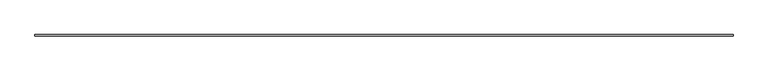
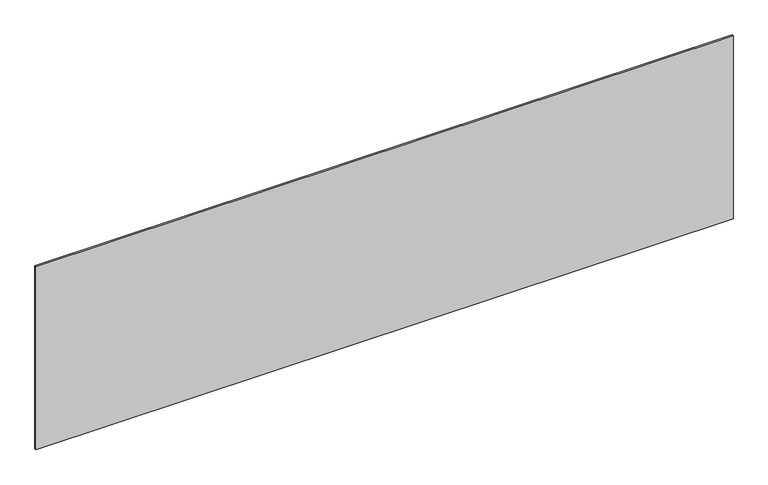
"""IFC4 building model written with IfcOpenShell, lengths in millimetres: plate geometry, システム パネル : 標準."""

from ifc_helpers import new_model, si_unit, origin, origin_with_axes, place, context, project, spatial, polyline, outline, extrude, source, transform, mapped, element, save


def plate_65269aec(model_context):
    return source(origin(), model_context, "Body", "SweptSolid", [
        extrude(outline(polyline([(2281.6666667, -5.0), (-2281.6666667, -5.0), (-2281.6666667, 5.0), (2281.6666667, 5.0), (2281.6666667, -5.0)])), origin_with_axes(), (0.0, 0.0, 1.0), 1266.9562992),
    ])


if __name__ == "__main__":
    model = new_model("IFC4")
    model_context = context("Model", 3, world=origin())
    ifc_project = project(units=[si_unit("LENGTHUNIT", "METRE", prefix="MILLI")], contexts=[model_context])
    site = spatial("IfcSite", under=ifc_project)
    building = spatial("IfcBuilding", under=site)
    placement = place(None, origin())
    plate_shape = plate_65269aec(model_context)
    element("IfcPlate", 1, ObjectType="システム パネル : 標準", at=placement, inside=building, context=model_context, shape_type="MappedRepresentation", body=[
        mapped(plate_shape, transform((0.0, 0.0, 0.0), x_axis=(1.0, 0.0, 0.0), y_axis=(0.0, 1.0, 0.0), z_axis=(0.0, 0.0, 1.0))),
    ])
    save(model, "model.ifc")
